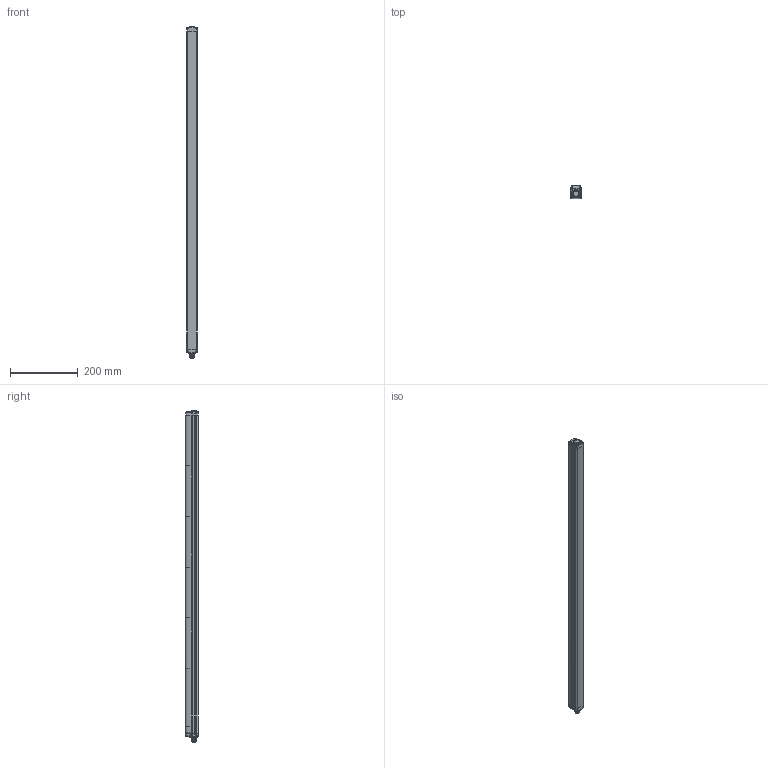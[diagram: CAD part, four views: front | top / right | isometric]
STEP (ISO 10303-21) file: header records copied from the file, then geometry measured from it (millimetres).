
FILE_DESCRIPTION(/* description */ (''),/* implementation_level */ '2;1');
FILE_NAME(/* name */ 'DSD-0150.stp',/* time_stamp */ '2020-07-15T15:57:11+02:00',/* author */ (''),/* organization */ (''),/* preprocessor_version */ 'ST-DEVELOPER v16.7',/* originating_system */ 'SIEMENS PLM Software NX 12.0',/* authorisation */ '');
FILE_SCHEMA (('AUTOMOTIVE_DESIGN { 1 0 10303 214 3 1 1 1 }'));
Products named in the file (1): AP025791_00_1-DSD-0150
Bounding box: 32.3 x 36.9 x 983.24 mm (x, y, z)
Volume: 972019.7 mm3; surface area: 230507.3 mm2
Topology: 12 solids, 716 shells, 1626 faces, 5094 edges, 4012 vertices
Faces by surface type: cylinder 606, bspline 559, plane 376, sphere 50, cone 27, torus 8
Full cylindrical faces by diameter (mm): 1 x8, 1.5 x6, 2 x6, 2.05 x4, 2.5 x12, 2.7 x10, 2.9 x6, 3 x12, 3.4 x6, 3.6 x12, 4.7 x2, 5 x10, 5.3 x2, 7.5 x1, 8 x1, 8.2 x1, 9.3 x1, 9.5 x1, 9.55 x1, 10.5 x1, 11 x2, 12 x12, 13.97 x1, 14.3 x1, 16 x2
Entity records: 83891 total; most frequent: CARTESIAN_POINT 35498, ORIENTED_EDGE 6918, DIRECTION 5939, EDGE_CURVE 4885, VERTEX_POINT 4006, AXIS2_PLACEMENT_3D 2317, EDGE_LOOP 1859, PRESENTATION_STYLE_ASSIGNMENT 1632
